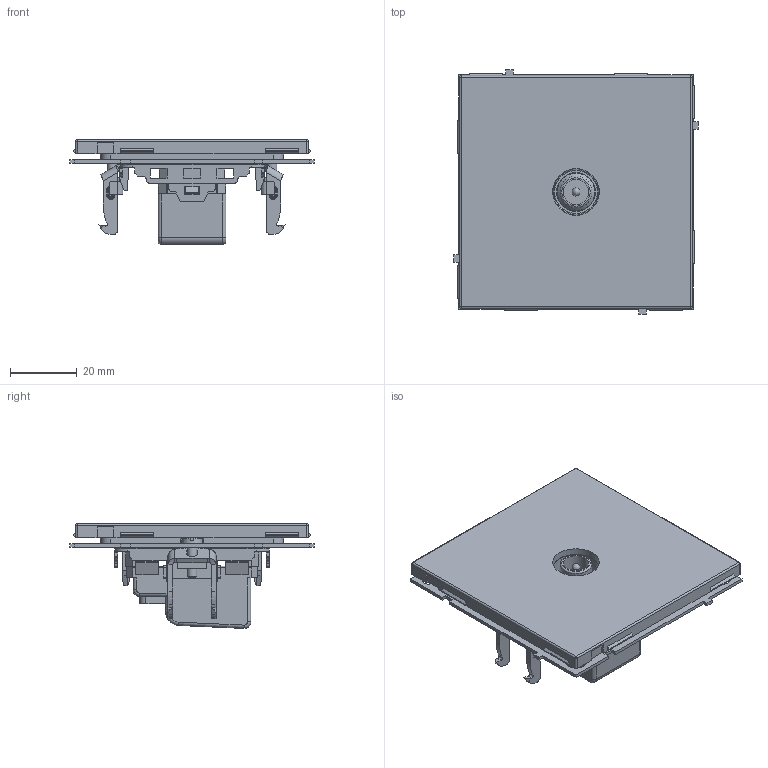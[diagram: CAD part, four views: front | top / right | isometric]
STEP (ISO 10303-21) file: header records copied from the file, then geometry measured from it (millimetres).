
FILE_DESCRIPTION (( 'STEP AP203' ), '1' );
FILE_NAME ('7000513.STEP', '2025-12-05T07:55:21', ( '' ), ( '' ), 'SwSTEP 2.0', 'SolidWorks 2022', '' );
FILE_SCHEMA (( 'CONFIG_CONTROL_DESIGN' ));
Length unit declared in the file: millimetre
Products named in the file (1): 7000513
Bounding box: 73.5 x 73.5 x 31.5 mm (x, y, z)
Volume: 42658.6 mm3; surface area: 26512.4 mm2
Topology: 3 solids, 3 shells, 896 faces, 2449 edges, 1555 vertices
Faces by surface type: plane 567, cylinder 230, torus 46, cone 36, bspline 12, sphere 5
Full cylindrical faces by diameter (mm): 2.4 x1, 3 x4, 3.3 x2, 5.35 x2, 6 x2, 7.6 x1, 9.5 x1, 11.2 x1, 14 x1, 15.3 x1
Entity records: 28789 total; most frequent: CARTESIAN_POINT 5959, ORIENTED_EDGE 4800, DIRECTION 4646, EDGE_CURVE 2400, LINE 1724, VECTOR 1724, VERTEX_POINT 1540, AXIS2_PLACEMENT_3D 1461
